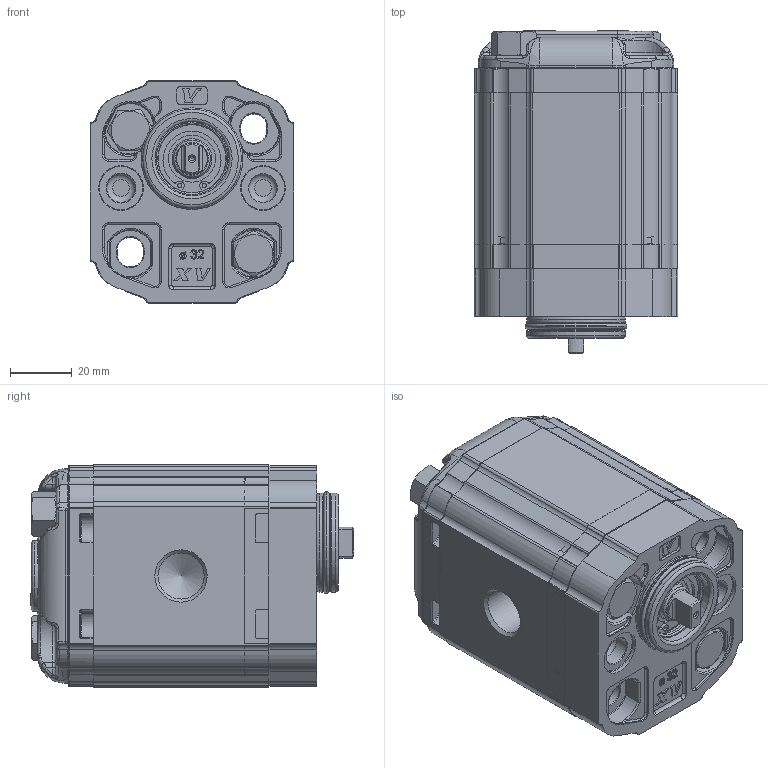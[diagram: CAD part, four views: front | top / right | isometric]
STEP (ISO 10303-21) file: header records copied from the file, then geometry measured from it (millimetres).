
FILE_DESCRIPTION( ( 'Unknown' ), '1' );
FILE_NAME( 'P:/montaggio_easy/output/STP/X1P2942DBBA.stp', 'Unknown', ( 'Unknown' ), ( 'Unknown' ), 'PSStep 14.0', 'Unknown', ' ' );
FILE_SCHEMA( ( 'AUTOMOTIVE_DESIGN { 1 0 10303 214 1 1 1 1 }' ) );
Length unit declared in the file: millimetre
Products named in the file (5): Assem1; X1P42; 1D; X1BBH57; XP119-A
Bounding box: 66 x 104.9 x 72 mm (x, y, z)
Surface area: 135550.8 mm2
Topology: 8 solids, 10 shells, 3654 faces, 9234 edges, 5846 vertices
Faces by surface type: plane 1636, cylinder 990, torus 366, extrusion 296, bspline 252, cone 106, sphere 8
Full cylindrical faces by diameter (mm): 1.447 x4, 1.5 x2, 2.5 x2, 3 x8, 8 x8, 8.5 x6, 9 x4, 9.3 x4, 10 x2, 10.5 x4, 11.965 x2, 12 x6, 12.923 x2, 14.5 x4, 14.95 x4, 15.115 x2, 15.181 x2, 19 x2, 20 x2, 22 x4, 22.2 x2, 23 x2, 24 x2, 29.4 x4, 32 x4, 32.96 x2
Entity records: 76912 total; most frequent: CARTESIAN_POINT 19423, ORIENTED_EDGE 8910, DIRECTION 8630, EDGE_CURVE 4455, AXIS2_PLACEMENT_3D 3001, VERTEX_POINT 2880, VECTOR 2628, LINE 2480
